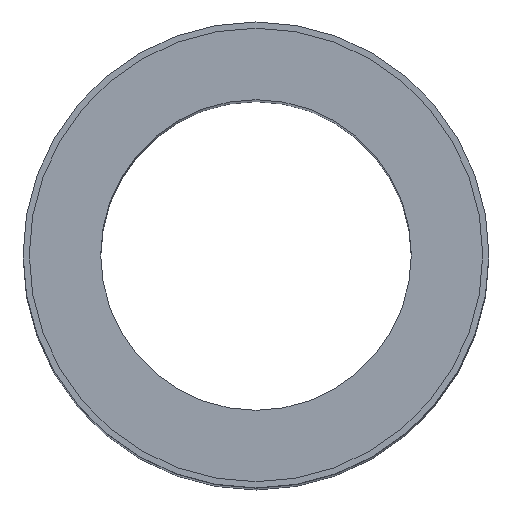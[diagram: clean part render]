
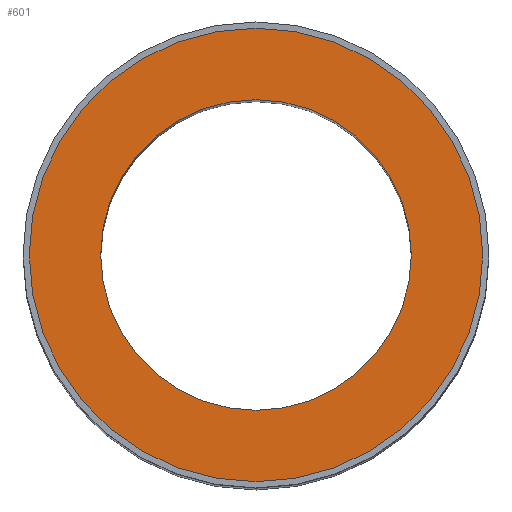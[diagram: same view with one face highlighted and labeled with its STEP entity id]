
A CAD part, top view. The second image highlights one B-rep face of the part: STEP entity #601.
In plain terms, the highlighted planar face has unit normal (0, 0, 1).
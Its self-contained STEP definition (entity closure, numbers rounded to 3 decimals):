
#135=CARTESIAN_POINT('',(-36.5,0.,191.0));
#136=VERTEX_POINT('',#135);
#152=CARTESIAN_POINT('',(36.5,0.,191.0));
#153=VERTEX_POINT('',#152);
#160=CARTESIAN_POINT('',(0.0,0.0,191.0));
#161=DIRECTION('',(0.0,0.0,-1.0));
#162=DIRECTION('',(-1.0,0.0,0.0));
#163=AXIS2_PLACEMENT_3D('',#160,#161,#162);
#164=CIRCLE('',#163,36.5);
#165=EDGE_CURVE('',#153,#136,#164,.T.);
#175=CARTESIAN_POINT('',(-25.0,0.,191.0));
#176=VERTEX_POINT('',#175);
#185=CARTESIAN_POINT('',(25.0,0.,191.0));
#186=VERTEX_POINT('',#185);
#187=CARTESIAN_POINT('',(0.0,0.0,191.0));
#188=DIRECTION('',(0.0,0.0,-1.0));
#189=DIRECTION('',(-1.0,0.0,0.0));
#190=AXIS2_PLACEMENT_3D('',#187,#188,#189);
#191=CIRCLE('',#190,25.0);
#192=EDGE_CURVE('',#186,#176,#191,.T.);
#552=CARTESIAN_POINT('',(0.0,0.0,191.0));
#553=DIRECTION('',(0.0,0.0,-1.0));
#554=DIRECTION('',(-1.0,0.0,0.0));
#555=AXIS2_PLACEMENT_3D('',#552,#553,#554);
#556=CIRCLE('',#555,25.0);
#557=EDGE_CURVE('',#176,#186,#556,.T.);
#582=CARTESIAN_POINT('',(0.0,0.0,191.0));
#583=DIRECTION('',(0.0,0.0,-1.0));
#584=DIRECTION('',(-1.0,0.0,0.0));
#585=AXIS2_PLACEMENT_3D('',#582,#583,#584);
#586=PLANE('',#585);
#587=ORIENTED_EDGE('',*,*,#165,.F.);
#588=CARTESIAN_POINT('',(0.0,0.0,191.0));
#589=DIRECTION('',(0.0,0.0,-1.0));
#590=DIRECTION('',(-1.0,0.0,0.0));
#591=AXIS2_PLACEMENT_3D('',#588,#589,#590);
#592=CIRCLE('',#591,36.5);
#593=EDGE_CURVE('',#136,#153,#592,.T.);
#594=ORIENTED_EDGE('',*,*,#593,.F.);
#595=EDGE_LOOP('',(#587,#594));
#596=FACE_OUTER_BOUND('',#595,.T.);
#597=ORIENTED_EDGE('',*,*,#192,.T.);
#598=ORIENTED_EDGE('',*,*,#557,.T.);
#599=EDGE_LOOP('',(#597,#598));
#600=FACE_BOUND('',#599,.T.);
#601=ADVANCED_FACE('',(#596,#600),#586,.F.);
